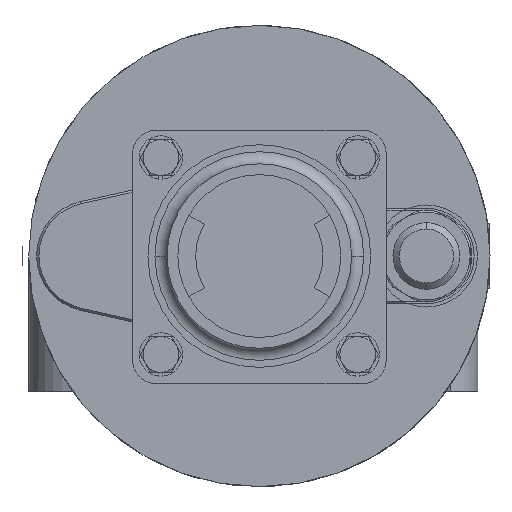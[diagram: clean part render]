
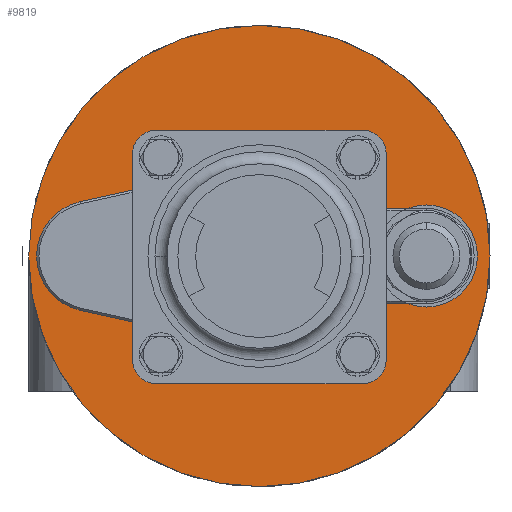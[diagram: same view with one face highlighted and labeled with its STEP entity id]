
A CAD part, front view. The second image highlights one B-rep face of the part: STEP entity #9819.
In plain terms, the highlighted planar face has unit normal (0, -1, 0).
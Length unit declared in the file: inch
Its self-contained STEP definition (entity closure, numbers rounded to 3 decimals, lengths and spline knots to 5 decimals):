
#8396=CARTESIAN_POINT('',(0.00015,18.4105,0.00015));
#8397=DIRECTION('',(0.,1.,0.));
#8398=DIRECTION('',(0.,0.,-1.));
#8399=AXIS2_PLACEMENT_3D('',#8396,#8397,#8398);
#8401=CARTESIAN_POINT('',(0.00015,18.4105,0.00015));
#8402=DIRECTION('',(0.,1.,0.));
#8403=DIRECTION('',(0.,0.,1.));
#8404=AXIS2_PLACEMENT_3D('',#8401,#8402,#8403);
#9193=CARTESIAN_POINT('',(0.00015,18.4105,-3.62485));
#9194=CARTESIAN_POINT('',(0.00015,18.4105,3.62515));
#9195=VERTEX_POINT('',#9193);
#9196=VERTEX_POINT('',#9194);
#9809=CARTESIAN_POINT('',(0.00015,18.4105,0.00015));
#9810=DIRECTION('',(0.,1.,0.));
#9811=DIRECTION('',(-1.,0.,0.));
#9812=AXIS2_PLACEMENT_3D('',#9809,#9810,#9811);
#9813=PLANE('',#9812);
#9814=ORIENTED_EDGE('',*,*,#9794,.T.);
#9816=ORIENTED_EDGE('',*,*,#9815,.T.);
#9817=EDGE_LOOP('',(#9814,#9816));
#9818=FACE_OUTER_BOUND('',#9817,.F.);
#9819=ADVANCED_FACE('',(#9818),#9813,.F.);
#8400=CIRCLE('',#8399,3.625);
#8405=CIRCLE('',#8404,3.625);
#9794=EDGE_CURVE('',#9195,#9196,#8400,.T.);
#9815=EDGE_CURVE('',#9196,#9195,#8405,.T.);
